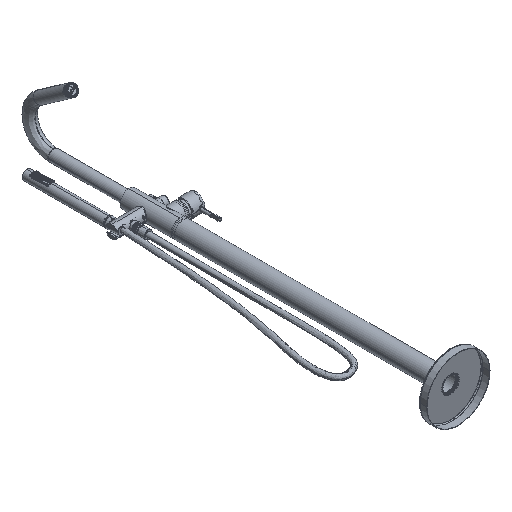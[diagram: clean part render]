
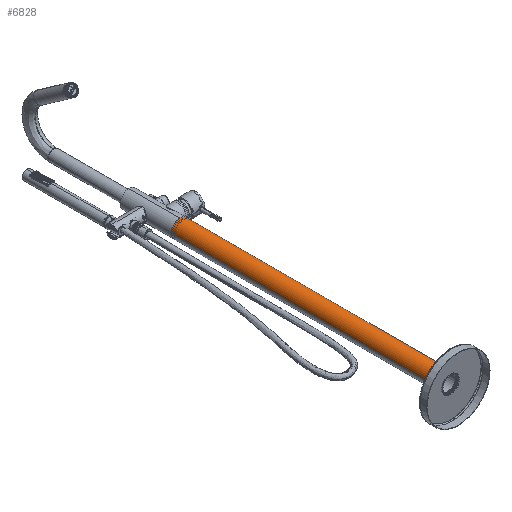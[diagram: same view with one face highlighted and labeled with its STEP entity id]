
A CAD part, isometric view. The second image highlights one B-rep face of the part: STEP entity #6828.
In plain terms, the highlighted cylindrical face has radius 22.5 mm (diameter 45 mm), a partial arc.
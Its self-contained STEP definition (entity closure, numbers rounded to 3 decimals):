
#300 = EDGE_CURVE ( 'NONE', #27467, #57117, #38031, .T. ) ;
#464 = DIRECTION ( 'NONE',  ( 0., 1., 0. ) ) ;
#1003 = VECTOR ( 'NONE', #8179, 1000. ) ;
#2071 = DIRECTION ( 'NONE',  ( 0., -1., 0. ) ) ;
#3807 = ORIENTED_EDGE ( 'NONE', *, *, #20413, .T. ) ;
#6675 = CYLINDRICAL_SURFACE ( 'NONE', #52388, 22.5 ) ;
#6828 = ADVANCED_FACE ( 'NONE', ( #24619 ), #6675, .T. ) ;
#7269 = LINE ( 'NONE', #41166, #8644 ) ;
#7327 = CARTESIAN_POINT ( 'NONE',  ( 0., 690., 0. ) ) ;
#8179 = DIRECTION ( 'NONE',  ( 0., -1., 0. ) ) ;
#8644 = VECTOR ( 'NONE', #2071, 1000. ) ;
#8821 = LINE ( 'NONE', #17618, #1003 ) ;
#13263 = EDGE_LOOP ( 'NONE', ( #60905, #29563, #36584, #3807 ) ) ;
#14102 = CARTESIAN_POINT ( 'NONE',  ( -22.5, 684., 0. ) ) ;
#15429 = CARTESIAN_POINT ( 'NONE',  ( 22.5, 684., 0. ) ) ;
#16217 = VERTEX_POINT ( 'NONE', #50146 ) ;
#17618 = CARTESIAN_POINT ( 'NONE',  ( 22.5, 690., 0. ) ) ;
#20413 = EDGE_CURVE ( 'NONE', #27440, #16217, #34308, .T. ) ;
#24619 = FACE_OUTER_BOUND ( 'NONE', #13263, .T. ) ;
#27440 = VERTEX_POINT ( 'NONE', #39174 ) ;
#27467 = VERTEX_POINT ( 'NONE', #14102 ) ;
#29563 = ORIENTED_EDGE ( 'NONE', *, *, #300, .F. ) ;
#34308 = CIRCLE ( 'NONE', #40535, 22.5 ) ;
#35290 = DIRECTION ( 'NONE',  ( -1., 0., 0. ) ) ;
#36584 = ORIENTED_EDGE ( 'NONE', *, *, #38980, .T. ) ;
#37296 = CARTESIAN_POINT ( 'NONE',  ( 0., 684., 0. ) ) ;
#38031 = CIRCLE ( 'NONE', #54601, 22.5 ) ;
#38980 = EDGE_CURVE ( 'NONE', #27467, #27440, #7269, .T. ) ;
#39174 = CARTESIAN_POINT ( 'NONE',  ( -22.5, 0., 0. ) ) ;
#40535 = AXIS2_PLACEMENT_3D ( 'NONE', #60360, #464, #35290 ) ;
#41166 = CARTESIAN_POINT ( 'NONE',  ( -22.5, 690., 0. ) ) ;
#42188 = DIRECTION ( 'NONE',  ( 0., 1., 0. ) ) ;
#47053 = DIRECTION ( 'NONE',  ( 0., -1., 0. ) ) ;
#50146 = CARTESIAN_POINT ( 'NONE',  ( 22.5, 0., 0. ) ) ;
#52388 = AXIS2_PLACEMENT_3D ( 'NONE', #7327, #47053, #56789 ) ;
#54601 = AXIS2_PLACEMENT_3D ( 'NONE', #37296, #42188, #62039 ) ;
#56789 = DIRECTION ( 'NONE',  ( -1., 0., 0. ) ) ;
#57117 = VERTEX_POINT ( 'NONE', #15429 ) ;
#60360 = CARTESIAN_POINT ( 'NONE',  ( 0., 0., 0. ) ) ;
#60905 = ORIENTED_EDGE ( 'NONE', *, *, #61553, .F. ) ;
#61553 = EDGE_CURVE ( 'NONE', #57117, #16217, #8821, .T. ) ;
#62039 = DIRECTION ( 'NONE',  ( 1., 0., 0. ) ) ;
